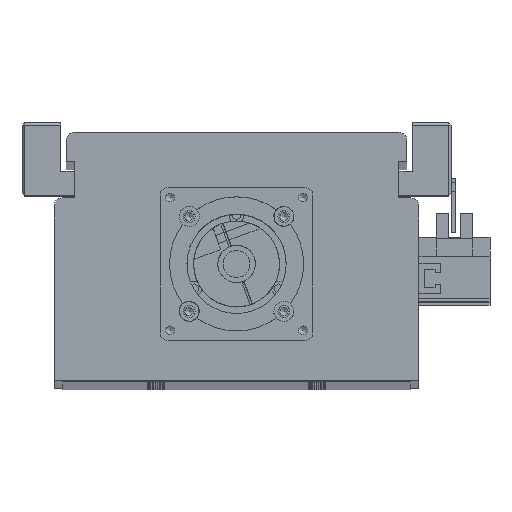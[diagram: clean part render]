
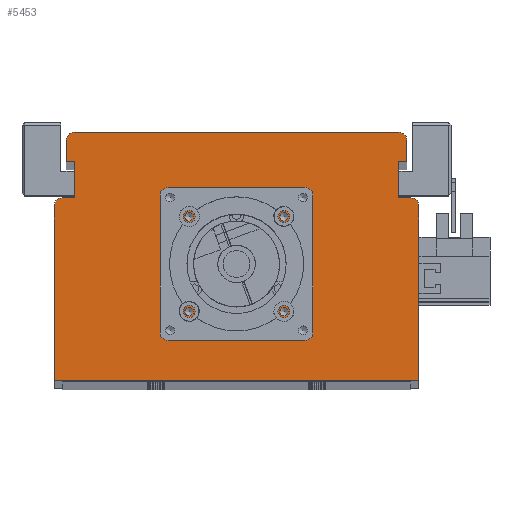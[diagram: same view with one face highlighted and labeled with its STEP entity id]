
A CAD part, top view. The second image highlights one B-rep face of the part: STEP entity #5453.
In plain terms, the highlighted planar face has unit normal (0, 0, 1).
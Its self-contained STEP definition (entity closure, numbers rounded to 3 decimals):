
#4011=CARTESIAN_POINT('',(19.321,61.5,1695.0));
#4012=VERTEX_POINT('',#4011);
#4013=CARTESIAN_POINT('',(17.7,61.5,1695.0));
#4014=DIRECTION('',(0.0,0.0,-1.0));
#4015=DIRECTION('',(1.0,0.0,0.0));
#4016=AXIS2_PLACEMENT_3D('',#4013,#4014,#4015);
#4017=CIRCLE('',#4016,1.621);
#4018=EDGE_CURVE('',#4012,#4012,#4017,.T.);
#4090=CARTESIAN_POINT('',(19.321,26.1,1695.0));
#4091=VERTEX_POINT('',#4090);
#4092=CARTESIAN_POINT('',(17.7,26.1,1695.0));
#4093=DIRECTION('',(0.0,0.0,-1.0));
#4094=DIRECTION('',(1.0,0.0,0.0));
#4095=AXIS2_PLACEMENT_3D('',#4092,#4093,#4094);
#4096=CIRCLE('',#4095,1.621);
#4097=EDGE_CURVE('',#4091,#4091,#4096,.T.);
#4169=CARTESIAN_POINT('',(-16.079,26.1,1695.0));
#4170=VERTEX_POINT('',#4169);
#4171=CARTESIAN_POINT('',(-17.7,26.1,1695.0));
#4172=DIRECTION('',(0.0,0.0,-1.0));
#4173=DIRECTION('',(1.0,0.0,0.0));
#4174=AXIS2_PLACEMENT_3D('',#4171,#4172,#4173);
#4175=CIRCLE('',#4174,1.621);
#4176=EDGE_CURVE('',#4170,#4170,#4175,.T.);
#4248=CARTESIAN_POINT('',(-16.079,61.5,1695.0));
#4249=VERTEX_POINT('',#4248);
#4250=CARTESIAN_POINT('',(-17.7,61.5,1695.0));
#4251=DIRECTION('',(0.0,0.0,-1.0));
#4252=DIRECTION('',(1.0,0.0,0.0));
#4253=AXIS2_PLACEMENT_3D('',#4250,#4251,#4252);
#4254=CIRCLE('',#4253,1.621);
#4255=EDGE_CURVE('',#4249,#4249,#4254,.T.);
#4289=CARTESIAN_POINT('',(26.5,43.8,1695.0));
#4290=VERTEX_POINT('',#4289);
#4291=CARTESIAN_POINT('',(24.5,43.8,1695.0));
#4292=DIRECTION('',(0.0,0.0,-1.0));
#4293=DIRECTION('',(1.0,0.0,0.0));
#4294=AXIS2_PLACEMENT_3D('',#4291,#4292,#4293);
#4295=CIRCLE('',#4294,2.0);
#4296=EDGE_CURVE('',#4290,#4290,#4295,.T.);
#4338=CARTESIAN_POINT('',(-22.5,43.8,1695.0));
#4339=VERTEX_POINT('',#4338);
#4340=CARTESIAN_POINT('',(-24.5,43.8,1695.0));
#4341=DIRECTION('',(0.0,0.0,-1.0));
#4342=DIRECTION('',(1.0,0.0,0.0));
#4343=AXIS2_PLACEMENT_3D('',#4340,#4341,#4342);
#4344=CIRCLE('',#4343,2.0);
#4345=EDGE_CURVE('',#4339,#4339,#4344,.T.);
#5269=CARTESIAN_POINT('',(21.05,43.8,1695.0));
#5270=VERTEX_POINT('',#5269);
#5271=CARTESIAN_POINT('',(0.0,43.8,1695.0));
#5272=DIRECTION('',(0.0,0.0,-1.0));
#5273=DIRECTION('',(-1.0,0.0,0.0));
#5274=AXIS2_PLACEMENT_3D('',#5271,#5272,#5273);
#5275=CIRCLE('',#5274,21.05);
#5276=EDGE_CURVE('',#5270,#5270,#5275,.T.);
#5293=CARTESIAN_POINT('',(0.,29.533,1695.0));
#5294=DIRECTION('',(0.0,0.0,1.0));
#5295=DIRECTION('',(1.0,0.0,0.0));
#5296=AXIS2_PLACEMENT_3D('',#5293,#5294,#5295);
#5297=PLANE('',#5296);
#5298=CARTESIAN_POINT('',(-65.,68.5,1695.0));
#5299=VERTEX_POINT('',#5298);
#5300=CARTESIAN_POINT('',(-60.5,68.5,1695.0));
#5301=VERTEX_POINT('',#5300);
#5302=CARTESIAN_POINT('',(-65.,68.5,1695.0));
#5303=DIRECTION('',(1.0,0.0,0.0));
#5304=VECTOR('',#5303,4.5);
#5305=LINE('',#5302,#5304);
#5306=EDGE_CURVE('',#5299,#5301,#5305,.T.);
#5307=ORIENTED_EDGE('',*,*,#5306,.F.);
#5308=CARTESIAN_POINT('',(-68.,65.5,1695.0));
#5309=VERTEX_POINT('',#5308);
#5310=CARTESIAN_POINT('',(-65.,65.5,1695.0));
#5311=DIRECTION('',(0.0,0.0,-1.0));
#5312=DIRECTION('',(0.0,1.0,0.0));
#5313=AXIS2_PLACEMENT_3D('',#5310,#5311,#5312);
#5314=CIRCLE('',#5313,3.);
#5315=EDGE_CURVE('',#5309,#5299,#5314,.T.);
#5316=ORIENTED_EDGE('',*,*,#5315,.F.);
#5317=CARTESIAN_POINT('',(-68.0,0.5,1695.0));
#5318=VERTEX_POINT('',#5317);
#5319=CARTESIAN_POINT('',(-68.0,0.5,1695.0));
#5320=DIRECTION('',(0.0,1.0,0.0));
#5321=VECTOR('',#5320,65.0);
#5322=LINE('',#5319,#5321);
#5323=EDGE_CURVE('',#5318,#5309,#5322,.T.);
#5324=ORIENTED_EDGE('',*,*,#5323,.F.);
#5325=CARTESIAN_POINT('',(68.0,0.5,1695.0));
#5326=VERTEX_POINT('',#5325);
#5327=CARTESIAN_POINT('',(68.0,0.5,1695.0));
#5328=DIRECTION('',(-1.0,0.0,0.0));
#5329=VECTOR('',#5328,136.0);
#5330=LINE('',#5327,#5329);
#5331=EDGE_CURVE('',#5326,#5318,#5330,.T.);
#5332=ORIENTED_EDGE('',*,*,#5331,.F.);
#5333=CARTESIAN_POINT('',(68.0,65.5,1695.0));
#5334=VERTEX_POINT('',#5333);
#5335=CARTESIAN_POINT('',(68.0,65.5,1695.0));
#5336=DIRECTION('',(0.0,-1.0,0.0));
#5337=VECTOR('',#5336,65.0);
#5338=LINE('',#5335,#5337);
#5339=EDGE_CURVE('',#5334,#5326,#5338,.T.);
#5340=ORIENTED_EDGE('',*,*,#5339,.F.);
#5341=CARTESIAN_POINT('',(65.,68.5,1695.0));
#5342=VERTEX_POINT('',#5341);
#5343=CARTESIAN_POINT('',(65.,65.5,1695.0));
#5344=DIRECTION('',(0.0,0.0,-1.0));
#5345=DIRECTION('',(1.0,0.0,0.0));
#5346=AXIS2_PLACEMENT_3D('',#5343,#5344,#5345);
#5347=CIRCLE('',#5346,3.);
#5348=EDGE_CURVE('',#5342,#5334,#5347,.T.);
#5349=ORIENTED_EDGE('',*,*,#5348,.F.);
#5350=CARTESIAN_POINT('',(60.5,68.5,1695.0));
#5351=VERTEX_POINT('',#5350);
#5352=CARTESIAN_POINT('',(60.5,68.5,1695.0));
#5353=DIRECTION('',(1.0,0.0,0.0));
#5354=VECTOR('',#5353,4.5);
#5355=LINE('',#5352,#5354);
#5356=EDGE_CURVE('',#5351,#5342,#5355,.T.);
#5357=ORIENTED_EDGE('',*,*,#5356,.F.);
#5358=CARTESIAN_POINT('',(60.5,82.,1695.0));
#5359=VERTEX_POINT('',#5358);
#5360=CARTESIAN_POINT('',(60.5,82.,1695.0));
#5361=DIRECTION('',(0.0,-1.0,0.0));
#5362=VECTOR('',#5361,13.5);
#5363=LINE('',#5360,#5362);
#5364=EDGE_CURVE('',#5359,#5351,#5363,.T.);
#5365=ORIENTED_EDGE('',*,*,#5364,.F.);
#5366=CARTESIAN_POINT('',(63.5,82.,1695.0));
#5367=VERTEX_POINT('',#5366);
#5368=CARTESIAN_POINT('',(63.5,82.,1695.0));
#5369=DIRECTION('',(-1.0,0.0,0.0));
#5370=VECTOR('',#5369,3.0);
#5371=LINE('',#5368,#5370);
#5372=EDGE_CURVE('',#5367,#5359,#5371,.T.);
#5373=ORIENTED_EDGE('',*,*,#5372,.F.);
#5374=CARTESIAN_POINT('',(63.5,90.0,1695.0));
#5375=VERTEX_POINT('',#5374);
#5376=CARTESIAN_POINT('',(63.5,90.0,1695.0));
#5377=DIRECTION('',(0.0,-1.0,0.0));
#5378=VECTOR('',#5377,8.);
#5379=LINE('',#5376,#5378);
#5380=EDGE_CURVE('',#5375,#5367,#5379,.T.);
#5381=ORIENTED_EDGE('',*,*,#5380,.F.);
#5382=CARTESIAN_POINT('',(60.5,93.,1695.0));
#5383=VERTEX_POINT('',#5382);
#5384=CARTESIAN_POINT('',(60.5,90.0,1695.0));
#5385=DIRECTION('',(0.0,0.0,-1.0));
#5386=DIRECTION('',(1.0,0.0,0.0));
#5387=AXIS2_PLACEMENT_3D('',#5384,#5385,#5386);
#5388=CIRCLE('',#5387,3.);
#5389=EDGE_CURVE('',#5383,#5375,#5388,.T.);
#5390=ORIENTED_EDGE('',*,*,#5389,.F.);
#5391=CARTESIAN_POINT('',(-60.5,93.0,1695.0));
#5392=VERTEX_POINT('',#5391);
#5393=CARTESIAN_POINT('',(-60.5,93.0,1695.0));
#5394=DIRECTION('',(1.0,0.0,0.0));
#5395=VECTOR('',#5394,121.0);
#5396=LINE('',#5393,#5395);
#5397=EDGE_CURVE('',#5392,#5383,#5396,.T.);
#5398=ORIENTED_EDGE('',*,*,#5397,.F.);
#5399=CARTESIAN_POINT('',(-63.5,90.0,1695.0));
#5400=VERTEX_POINT('',#5399);
#5401=CARTESIAN_POINT('',(-60.5,90.0,1695.0));
#5402=DIRECTION('',(0.0,0.0,-1.0));
#5403=DIRECTION('',(0.0,1.0,0.0));
#5404=AXIS2_PLACEMENT_3D('',#5401,#5402,#5403);
#5405=CIRCLE('',#5404,3.);
#5406=EDGE_CURVE('',#5400,#5392,#5405,.T.);
#5407=ORIENTED_EDGE('',*,*,#5406,.F.);
#5408=CARTESIAN_POINT('',(-63.5,82.,1695.0));
#5409=VERTEX_POINT('',#5408);
#5410=CARTESIAN_POINT('',(-63.5,82.,1695.0));
#5411=DIRECTION('',(0.0,1.0,0.0));
#5412=VECTOR('',#5411,8.);
#5413=LINE('',#5410,#5412);
#5414=EDGE_CURVE('',#5409,#5400,#5413,.T.);
#5415=ORIENTED_EDGE('',*,*,#5414,.F.);
#5416=CARTESIAN_POINT('',(-60.5,82.,1695.0));
#5417=VERTEX_POINT('',#5416);
#5418=CARTESIAN_POINT('',(-60.5,82.,1695.0));
#5419=DIRECTION('',(-1.0,0.0,0.0));
#5420=VECTOR('',#5419,3.);
#5421=LINE('',#5418,#5420);
#5422=EDGE_CURVE('',#5417,#5409,#5421,.T.);
#5423=ORIENTED_EDGE('',*,*,#5422,.F.);
#5424=CARTESIAN_POINT('',(-60.5,68.5,1695.0));
#5425=DIRECTION('',(0.0,1.0,0.0));
#5426=VECTOR('',#5425,13.5);
#5427=LINE('',#5424,#5426);
#5428=EDGE_CURVE('',#5301,#5417,#5427,.T.);
#5429=ORIENTED_EDGE('',*,*,#5428,.F.);
#5430=EDGE_LOOP('',(#5307,#5316,#5324,#5332,#5340,#5349,#5357,#5365,#5373,#5381,#5390,#5398,#5407,#5415,#5423,#5429));
#5431=FACE_OUTER_BOUND('',#5430,.T.);
#5432=ORIENTED_EDGE('',*,*,#4018,.T.);
#5433=EDGE_LOOP('',(#5432));
#5434=FACE_BOUND('',#5433,.T.);
#5435=ORIENTED_EDGE('',*,*,#4097,.T.);
#5436=EDGE_LOOP('',(#5435));
#5437=FACE_BOUND('',#5436,.T.);
#5438=ORIENTED_EDGE('',*,*,#4176,.T.);
#5439=EDGE_LOOP('',(#5438));
#5440=FACE_BOUND('',#5439,.T.);
#5441=ORIENTED_EDGE('',*,*,#4255,.T.);
#5442=EDGE_LOOP('',(#5441));
#5443=FACE_BOUND('',#5442,.T.);
#5444=ORIENTED_EDGE('',*,*,#4296,.T.);
#5445=EDGE_LOOP('',(#5444));
#5446=FACE_BOUND('',#5445,.T.);
#5447=ORIENTED_EDGE('',*,*,#4345,.T.);
#5448=EDGE_LOOP('',(#5447));
#5449=FACE_BOUND('',#5448,.T.);
#5450=ORIENTED_EDGE('',*,*,#5276,.T.);
#5451=EDGE_LOOP('',(#5450));
#5452=FACE_BOUND('',#5451,.T.);
#5453=ADVANCED_FACE('',(#5431,#5434,#5437,#5440,#5443,#5446,#5449,#5452),#5297,.T.);
